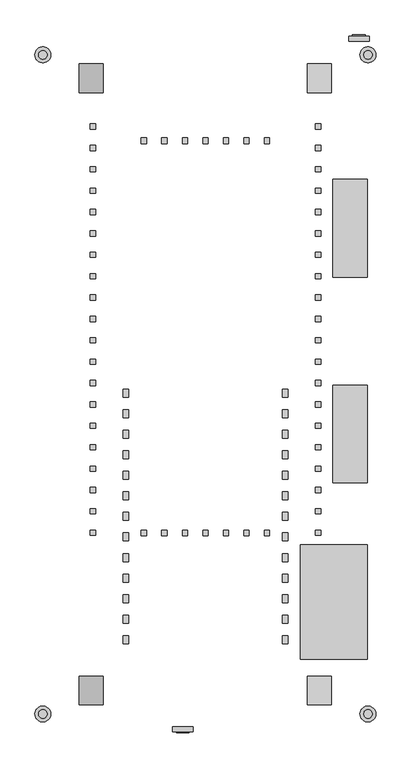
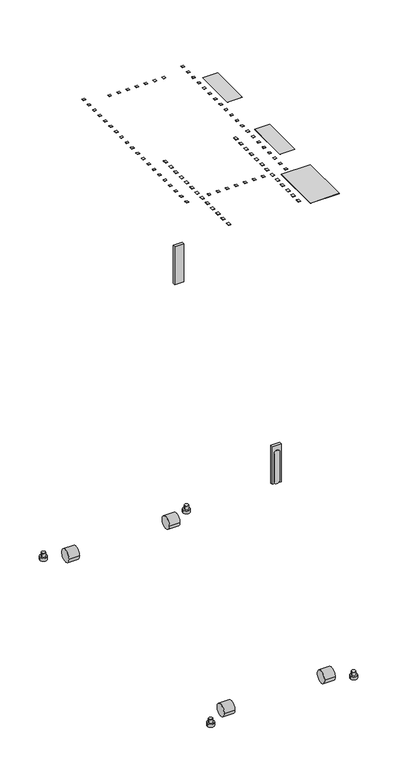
"""IFC4 building model written with IfcOpenShell, lengths in millimetres: proxy geometry, NetShelter_SX_Series_Rack_Enclosure_Schneider_Electric_BIM_Model : AR3300 - NetShelter SX, 42U, 600mm Wide X 1200mm Depth."""

from ifc_helpers import new_model, si_unit, point, frame, frame_2d, origin, place, context, project, spatial, polyline, circle_curve, trimmed, segment, composite_curve, outline, extrude, source, transform, mapped, element, save
from ifc_brep_helpers import plane_surface, cylinder_surface, advanced_brep


def mechanical_equipment_5f89525c(model_context):
    return source(origin(), model_context, "Body", "SolidModel", [
        extrude(outline(polyline([(166.5, -547.0), (166.5, -347.0), (283.5, -347.0), (283.5, -547.0), (166.5, -547.0)])), frame((0.0, 0.0, 1991.0), z_axis=(0.0, 0.0, 1.0), x_axis=(1.0, 0.0, 0.0)), (0.0, 0.0, 1.0), 1.0),
        extrude(outline(polyline([(283.5, -238.0), (223.5, -238.0), (223.5, -67.0), (283.5, -67.0), (283.5, -238.0)])), frame((0.0, 0.0, 1991.0), z_axis=(0.0, 0.0, 1.0), x_axis=(1.0, 0.0, 0.0)), (0.0, 0.0, 1.0), 1.0),
        extrude(outline(polyline([(283.5, 122.0), (223.5, 122.0), (223.5, 293.0), (283.5, 293.0), (283.5, 122.0)])), frame((0.0, 0.0, 1991.0), z_axis=(0.0, 0.0, 1.0), x_axis=(1.0, 0.0, 0.0)), (0.0, 0.0, 1.0), 1.0),
        extrude(outline(composite_curve([segment(trimmed(circle_curve(frame_2d((470.5, 25.0)), 25.0), [point((495.5, 25.0))], [point((445.5, 25.0))], False, "CARTESIAN"), True, "CONTINUOUS"), segment(trimmed(circle_curve(frame_2d((470.5, 25.0)), 25.0), [point((445.5, 25.0))], [point((495.5, 25.0))], False, "CARTESIAN"), True, "CONTINUOUS")], self_intersect=False)), frame((-221.0, 0.0, 0.0), z_axis=(1.0, 0.0, 0.0), x_axis=(0.0, 1.0, 0.0)), (0.0, 0.0, 1.0), 42.0),
        extrude(outline(composite_curve([segment(trimmed(circle_curve(frame_2d((470.5, 25.0)), 25.0), [point((495.5, 25.0))], [point((445.5, 25.0))], False, "CARTESIAN"), True, "CONTINUOUS"), segment(trimmed(circle_curve(frame_2d((470.5, 25.0)), 25.0), [point((445.5, 25.0))], [point((495.5, 25.0))], False, "CARTESIAN"), True, "CONTINUOUS")], self_intersect=False)), frame((179.0, 0.0, 0.0), z_axis=(1.0, 0.0, 0.0), x_axis=(0.0, 1.0, 0.0)), (0.0, 0.0, 1.0), 42.0),
        extrude(outline(composite_curve([segment(trimmed(circle_curve(frame_2d((-601.5, 25.0)), 25.0), [point((-626.5, 25.0))], [point((-576.5, 25.0))], False, "CARTESIAN"), True, "CONTINUOUS"), segment(trimmed(circle_curve(frame_2d((-601.5, 25.0)), 25.0), [point((-576.5, 25.0))], [point((-626.5, 25.0))], False, "CARTESIAN"), True, "CONTINUOUS")], self_intersect=False)), frame((-221.0, 0.0, 0.0), z_axis=(1.0, 0.0, 0.0), x_axis=(0.0, 1.0, 0.0)), (0.0, 0.0, 1.0), 42.0),
        extrude(outline(composite_curve([segment(trimmed(circle_curve(frame_2d((-601.5, 25.0)), 25.0), [point((-626.5, 25.0))], [point((-576.5, 25.0))], False, "CARTESIAN"), True, "CONTINUOUS"), segment(trimmed(circle_curve(frame_2d((-601.5, 25.0)), 25.0), [point((-576.5, 25.0))], [point((-626.5, 25.0))], False, "CARTESIAN"), True, "CONTINUOUS")], self_intersect=False)), frame((179.0, 0.0, 0.0), z_axis=(1.0, 0.0, 0.0), x_axis=(0.0, 1.0, 0.0)), (0.0, 0.0, 1.0), 42.0),
        advanced_brep(
        [(251.3368526, 544.0499756, 1123.0590115), (287.0, 544.0499756, 1123.0590115), (287.0, 544.0499756, 963.0), (272.3677154, 544.0499756, 963.0), (273.4393893, 544.0499756, 963.3154611), (275.3725006, 544.0499756, 964.3170777), (277.071341, 544.0499756, 965.6659795), (280.4225766, 544.0499756, 973.9455005), (280.4225766, 544.0499756, 979.9131415), (280.4225766, 544.0499756, 981.4978364), (280.4225766, 544.0499756, 1091.5384088), (257.9142777, 544.0499756, 1091.5384088), (257.9142777, 544.0499756, 981.4978364), (257.9142777, 544.0499756, 979.9131415), (257.9142777, 544.0499756, 973.9455005), (261.2655133, 544.0499756, 965.6659795), (262.9643537, 544.0499756, 964.3170777), (264.8974651, 544.0499756, 963.3154611), (265.969139, 544.0499756, 963.0), (251.3368526, 544.0499756, 963.0), (251.3368526, 535.0499756, 1123.0590115), (251.3368526, 535.0499756, 963.0), (287.0, 535.0499756, 963.0), (287.0, 535.0499756, 1123.0590115), (277.071341, 546.0499756, 965.6659795), (275.3725006, 546.0499756, 964.3170777), (273.4393893, 546.0499756, 963.3154611), (271.3450029, 546.0499756, 962.6989514), (269.1684272, 546.0499756, 962.4908285), (266.9918515, 546.0499756, 962.6989514), (264.8974651, 546.0499756, 963.3154611), (262.9643537, 546.0499756, 964.3170777), (261.2655133, 546.0499756, 965.6659795), (257.9142777, 546.0499756, 973.9455005), (257.9142777, 546.0499756, 979.9131415), (257.9142777, 546.0499756, 981.4978364), (257.9142777, 546.0499756, 1091.5384088), (280.4225766, 546.0499756, 1091.5384088), (280.4225766, 546.0499756, 981.4978364), (280.4225766, 546.0499756, 979.9131415), (280.4225766, 546.0499756, 973.9455005), (266.9918515, 544.0499756, 962.6989514), (269.1684272, 544.0499756, 962.4908285), (271.3450029, 544.0499756, 962.6989514)],
        [
            (0, 1),
            (1, 2),
            (2, 3),
            (3, 4),
            (4, 5),
            (5, 6),
            (6, 7, circle_curve(frame((267.9998766, 544.0499756, 974.1557506), z_axis=(0.0, -1.0, 0.0), x_axis=(-1.0, 0.0, 0.0)), 12.4244791)),
            (7, 8),
            (8, 9),
            (9, 10),
            (10, 11, circle_curve(frame((269.1684272, 544.0499756, 1091.5384088), z_axis=(0.0, -1.0, 0.0), x_axis=(-1.0, 0.0, 0.0)), 11.2541494)),
            (11, 12),
            (12, 13),
            (13, 14),
            (14, 15, circle_curve(frame((270.3369777, 544.0499756, 974.1557506), z_axis=(0.0, -1.0, 0.0), x_axis=(-1.0, 0.0, 0.0)), 12.4244791)),
            (15, 16),
            (16, 17),
            (17, 18),
            (18, 19),
            (19, 0),
            (20, 21),
            (21, 22),
            (22, 23),
            (23, 20),
            (0, 20),
            (23, 1),
            (22, 2),
            (21, 19),
            (18, 3),
            (24, 25),
            (25, 26),
            (26, 27),
            (27, 28),
            (28, 29),
            (29, 30),
            (30, 31),
            (31, 32),
            (32, 33, circle_curve(frame((270.3369777, 546.0499756, 974.1557506), z_axis=(0.0, 1.0, 0.0), x_axis=(-1.0, 0.0, 0.0)), 12.4244791)),
            (33, 34),
            (34, 35),
            (35, 36),
            (36, 37, circle_curve(frame((269.1684272, 546.0499756, 1091.5384088), z_axis=(0.0, 1.0, 0.0), x_axis=(-1.0, 0.0, 0.0)), 11.2541494)),
            (37, 38),
            (38, 39),
            (39, 40),
            (40, 24, circle_curve(frame((267.9998766, 546.0499756, 974.1557506), z_axis=(0.0, 1.0, 0.0), x_axis=(-1.0, 0.0, 0.0)), 12.4244791)),
            (41, 42),
            (42, 43),
            (43, 3),
            (18, 41),
            (24, 6),
            (5, 25),
            (4, 26),
            (43, 27),
            (42, 28),
            (41, 29),
            (17, 30),
            (16, 31),
            (15, 32),
            (14, 33),
            (13, 34),
            (12, 35),
            (11, 36),
            (10, 37),
            (9, 38),
            (8, 39),
            (7, 40),
        ],
        [
            plane_surface(frame((287.0, 544.0499756, 1123.0590115), z_axis=(0.0, 1.0, 0.0), x_axis=(1.0, 0.0, 0.0))),
            plane_surface(frame((287.0, 535.0499756, 1123.0590115), z_axis=(0.0, -1.0, 0.0), x_axis=(-1.0, 0.0, 0.0))),
            plane_surface(frame((251.3368526, 544.0499756, 1123.0590115), z_axis=(0.0, 0.0, 1.0), x_axis=(0.0, -1.0, 0.0))),
            plane_surface(frame((287.0, 544.0499756, 1123.0590115), z_axis=(1.0, 0.0, 0.0), x_axis=(0.0, -1.0, 0.0))),
            plane_surface(frame((287.0, 544.0499756, 963.0), z_axis=(0.0, 0.0, -1.0), x_axis=(0.0, -1.0, 0.0))),
            plane_surface(frame((251.3368526, 544.0499756, 963.0), z_axis=(-1.0, 0.0, 0.0), x_axis=(0.0, -1.0, 0.0))),
            plane_surface(frame((275.3725006, 546.0499756, 964.3170777), z_axis=(0.0, 1.0, 0.0), x_axis=(-0.7831506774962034, 0.0, -0.6218319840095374))),
            plane_surface(frame((275.3725006, 544.0499756, 964.3170777), z_axis=(0.0, -1.0, 0.0), x_axis=(0.7831506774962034, 0.0, 0.6218319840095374))),
            plane_surface(frame((277.071341, 546.0499756, 965.6659795), z_axis=(0.6218319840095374, 0.0, -0.7831506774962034), x_axis=(0.0, -1.0, 0.0))),
            plane_surface(frame((275.3725006, 546.0499756, 964.3170777), z_axis=(0.4600502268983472, 0.0, -0.8878928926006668), x_axis=(0.0, -1.0, 0.0))),
            plane_surface(frame((273.4393893, 546.0499756, 963.3154611), z_axis=(0.28238288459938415, 0.0, -0.9593017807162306), x_axis=(0.0, -1.0, 0.0))),
            plane_surface(frame((271.3450029, 546.0499756, 962.6989514), z_axis=(0.09518525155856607, 0.0, -0.9954595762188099), x_axis=(0.0, -1.0, 0.0))),
            plane_surface(frame((269.1684272, 546.0499756, 962.4908285), z_axis=(-0.09518525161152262, 0.0, -0.9954595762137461), x_axis=(0.0, -1.0, 0.0))),
            plane_surface(frame((266.9918515, 546.0499756, 962.6989514), z_axis=(-0.2823828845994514, 0.0, -0.9593017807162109), x_axis=(0.0, -1.0, 0.0))),
            plane_surface(frame((264.8974651, 546.0499756, 963.3154611), z_axis=(-0.4600502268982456, 0.0, -0.8878928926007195), x_axis=(0.0, -1.0, 0.0))),
            plane_surface(frame((262.9643537, 546.0499756, 964.3170777), z_axis=(-0.6218319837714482, 0.0, -0.7831506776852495), x_axis=(0.0, -1.0, 0.0))),
            cylinder_surface(frame((270.3369777, 544.0499756, 974.1557506), z_axis=(0.0, 1.0, 0.0), x_axis=(-1.0, 0.0, 0.0)), 12.4244791),
            plane_surface(frame((257.9142777, 546.0499756, 973.9455005), z_axis=(-1.0, 0.0, 0.0), x_axis=(0.0, -1.0, 0.0))),
            plane_surface(frame((257.9142777, 546.0499756, 979.9131415), z_axis=(-1.0, 0.0, 0.0), x_axis=(0.0, -1.0, 0.0))),
            plane_surface(frame((257.9142777, 546.0499756, 981.4978364), z_axis=(-1.0, 0.0, 0.0), x_axis=(0.0, -1.0, 0.0))),
            cylinder_surface(frame((269.1684272, 544.0499756, 1091.5384088), z_axis=(0.0, 1.0, 0.0), x_axis=(-1.0, 0.0, 0.0)), 11.2541494),
            plane_surface(frame((280.4225766, 546.0499756, 1091.5384088), z_axis=(1.0, 0.0, -1.3564306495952e-10), x_axis=(0.0, -1.0, 0.0))),
            plane_surface(frame((280.4225766, 546.0499756, 981.4978364), z_axis=(1.0, 0.0, 0.0), x_axis=(0.0, -1.0, 0.0))),
            plane_surface(frame((280.4225766, 546.0499756, 979.9131415), z_axis=(1.0, 0.0, 0.0), x_axis=(0.0, -1.0, 0.0))),
            cylinder_surface(frame((267.9998766, 544.0499756, 974.1557506), z_axis=(0.0, 1.0, 0.0), x_axis=(-1.0, 0.0, 0.0)), 12.4244791),
        ],
        [
            (0, [[1, 2, 3, 4, 5, 6, 7, 8, 9, 10, 11, 12, 13, 14, 15, 16, 17, 18, 19, 20]]),
            (1, [[21, 22, 23, 24]]),
            (2, [[-1, 25, -24, 26]]),
            (3, [[-2, -26, -23, 27]]),
            (4, [[-22, 28, -19, 29, -3, -27]]),
            (5, [[-20, -28, -21, -25]]),
            (6, [[30, 31, 32, 33, 34, 35, 36, 37, 38, 39, 40, 41, 42, 43, 44, 45, 46]]),
            (7, [[47, 48, 49, -29, 50]]),
            (8, [[-30, 51, -6, 52]]),
            (9, [[-31, -52, -5, 53]]),
            (10, [[-32, -53, -4, -49, 54]]),
            (11, [[-33, -54, -48, 55]]),
            (12, [[-34, -55, -47, 56]]),
            (13, [[-35, -56, -50, -18, 57]]),
            (14, [[-36, -57, -17, 58]]),
            (15, [[-37, -58, -16, 59]]),
            (16, [[-38, -59, -15, 60]]),
            (17, [[-39, -60, -14, 61]]),
            (18, [[-40, -61, -13, 62]]),
            (19, [[-41, -62, -12, 63]]),
            (20, [[-42, -63, -11, 64]]),
            (21, [[-43, -64, -10, 65]]),
            (22, [[-44, -65, -9, 66]]),
            (23, [[-45, -66, -8, 67]]),
            (24, [[-46, -67, -7, -51]]),
        ],
    ),
        extrude(outline(composite_curve([segment(trimmed(circle_curve(frame_2d((285.0, 511.5)), 7.5), [point((292.5, 511.5))], [point((277.5, 511.5))], False, "CARTESIAN"), True, "CONTINUOUS"), segment(trimmed(circle_curve(frame_2d((285.0, 511.5)), 7.5), [point((277.5, 511.5))], [point((292.5, 511.5))], False, "CARTESIAN"), True, "CONTINUOUS")], self_intersect=False)), frame((0.0, 0.0, 21.0), z_axis=(0.0, 0.0, 1.0), x_axis=(1.0, 0.0, 0.0)), (0.0, 0.0, 1.0), 16.0),
        extrude(outline(composite_curve([segment(trimmed(circle_curve(frame_2d((285.0, 511.5)), 14.0), [point((299.0, 511.5))], [point((271.0, 511.5))], False, "CARTESIAN"), True, "CONTINUOUS"), segment(trimmed(circle_curve(frame_2d((285.0, 511.5)), 14.0), [point((271.0, 511.5))], [point((299.0, 511.5))], False, "CARTESIAN"), True, "CONTINUOUS")], self_intersect=False)), frame((0.0, 0.0, 9.0), z_axis=(0.0, 0.0, 1.0), x_axis=(1.0, 0.0, 0.0)), (0.0, 0.0, 1.0), 12.0),
        extrude(outline(composite_curve([segment(trimmed(circle_curve(frame_2d((-285.0, 511.5)), 7.5), [point((-292.5, 511.5))], [point((-277.5, 511.5))], False, "CARTESIAN"), True, "CONTINUOUS"), segment(trimmed(circle_curve(frame_2d((-285.0, 511.5)), 7.5), [point((-277.5, 511.5))], [point((-292.5, 511.5))], False, "CARTESIAN"), True, "CONTINUOUS")], self_intersect=False)), frame((0.0, 0.0, 21.0), z_axis=(0.0, 0.0, 1.0), x_axis=(1.0, 0.0, 0.0)), (0.0, 0.0, 1.0), 16.0),
        extrude(outline(composite_curve([segment(trimmed(circle_curve(frame_2d((-285.0, 511.5)), 14.0), [point((-299.0, 511.5))], [point((-271.0, 511.5))], False, "CARTESIAN"), True, "CONTINUOUS"), segment(trimmed(circle_curve(frame_2d((-285.0, 511.5)), 14.0), [point((-271.0, 511.5))], [point((-299.0, 511.5))], False, "CARTESIAN"), True, "CONTINUOUS")], self_intersect=False)), frame((0.0, 0.0, 9.0), z_axis=(0.0, 0.0, 1.0), x_axis=(1.0, 0.0, 0.0)), (0.0, 0.0, 1.0), 12.0),
        extrude(outline(composite_curve([segment(trimmed(circle_curve(frame_2d((285.0, -642.5)), 7.5), [point((292.5, -642.5))], [point((277.5, -642.5))], False, "CARTESIAN"), True, "CONTINUOUS"), segment(trimmed(circle_curve(frame_2d((285.0, -642.5)), 7.5), [point((277.5, -642.5))], [point((292.5, -642.5))], False, "CARTESIAN"), True, "CONTINUOUS")], self_intersect=False)), frame((0.0, 0.0, 21.0), z_axis=(0.0, 0.0, 1.0), x_axis=(1.0, 0.0, 0.0)), (0.0, 0.0, 1.0), 16.0),
        extrude(outline(composite_curve([segment(trimmed(circle_curve(frame_2d((285.0, -642.5)), 14.0), [point((299.0, -642.5))], [point((271.0, -642.5))], False, "CARTESIAN"), True, "CONTINUOUS"), segment(trimmed(circle_curve(frame_2d((285.0, -642.5)), 14.0), [point((271.0, -642.5))], [point((299.0, -642.5))], False, "CARTESIAN"), True, "CONTINUOUS")], self_intersect=False)), frame((0.0, 0.0, 9.0), z_axis=(0.0, 0.0, 1.0), x_axis=(1.0, 0.0, 0.0)), (0.0, 0.0, 1.0), 12.0),
        advanced_brep(
        [(-292.5, -642.5, 37.0), (-277.5, -642.5, 37.0), (-277.5, -642.5, 21.0), (-292.5, -642.5, 21.0), (-299.0, -642.5, 21.0), (-271.0, -642.5, 21.0), (-299.0, -642.5, 9.0), (-271.0, -642.5, 9.0)],
        [
            (0, 1, circle_curve(frame((-285.0, -642.5, 37.0), z_axis=(0.0, 0.0, 1.0), x_axis=(1.0, 0.0, 0.0)), 7.5)),
            (1, 0, circle_curve(frame((-285.0, -642.5, 37.0), z_axis=(0.0, 0.0, 1.0), x_axis=(1.0, 0.0, 0.0)), 7.5)),
            (1, 2),
            (2, 3, circle_curve(frame((-285.0, -642.5, 21.0), z_axis=(0.0, 0.0, 1.0), x_axis=(1.0, 0.0, 0.0)), 7.5)),
            (3, 0),
            (3, 2, circle_curve(frame((-285.0, -642.5, 21.0), z_axis=(0.0, 0.0, 1.0), x_axis=(1.0, 0.0, 0.0)), 7.5)),
            (4, 5, circle_curve(frame((-285.0, -642.5, 21.0), z_axis=(0.0, 0.0, 1.0), x_axis=(1.0, 0.0, 0.0)), 14.0)),
            (5, 4, circle_curve(frame((-285.0, -642.5, 21.0), z_axis=(0.0, 0.0, 1.0), x_axis=(1.0, 0.0, 0.0)), 14.0)),
            (6, 7, circle_curve(frame((-285.0, -642.5, 9.0), z_axis=(0.0, 0.0, -1.0), x_axis=(1.0, 0.0, 0.0)), 14.0)),
            (7, 6, circle_curve(frame((-285.0, -642.5, 9.0), z_axis=(0.0, 0.0, -1.0), x_axis=(1.0, 0.0, 0.0)), 14.0)),
            (5, 7),
            (6, 4),
        ],
        [
            plane_surface(frame((-277.5, -642.5, 37.0), z_axis=(0.0, 0.0, 1.0), x_axis=(0.0, -1.0, 0.0))),
            cylinder_surface(frame((-285.0, -642.5, 21.0), z_axis=(0.0, 0.0, 1.0), x_axis=(1.0, 0.0, 0.0)), 7.5),
            plane_surface(frame((-271.0, -642.5, 21.0), z_axis=(0.0, 0.0, 1.0), x_axis=(0.0, -1.0, 0.0))),
            plane_surface(frame((-271.0, -642.5, 9.0), z_axis=(0.0, 0.0, -1.0), x_axis=(0.0, 1.0, 0.0))),
            cylinder_surface(frame((-285.0, -642.5, 9.0), z_axis=(0.0, 0.0, 1.0), x_axis=(1.0, 0.0, 0.0)), 14.0),
        ],
        [
            (0, [[1, 2]]),
            (1, [[3, 4, 5, -2]]),
            (1, [[-5, 6, -3, -1]]),
            (2, [[7, 8], [-6, -4]]),
            (3, [[9, 10]]),
            (4, [[11, -9, 12, -8]]),
            (4, [[-12, -10, -11, -7]]),
        ],
    ),
        advanced_brep(
        [(-57.4775271, -673.9999881, 1122.0590115), (-57.4775271, -673.9999881, 962.0), (-42.8452407, -673.9999881, 962.0), (-43.9169146, -673.9999881, 962.3154611), (-45.8500259, -673.9999881, 963.3170777), (-47.5488663, -673.9999881, 964.6659795), (-50.900102, -673.9999881, 972.9455005), (-50.900102, -673.9999881, 978.9131415), (-50.900102, -673.9999881, 980.4978364), (-50.900102, -673.9999881, 1090.5384088), (-28.391803, -673.9999881, 1090.5384088), (-28.3918031, -673.9999881, 980.4978364), (-28.3918031, -673.9999881, 978.9131415), (-28.3918031, -673.9999881, 972.9455005), (-31.7430387, -673.9999881, 964.6659794), (-33.4418791, -673.9999881, 963.3170777), (-35.3749904, -673.9999881, 962.3154611), (-36.4466643, -673.9999881, 962.0), (-21.8143797, -673.9999881, 962.0), (-21.8143797, -673.9999881, 1122.0590115), (-57.4775271, -664.9999881, 1122.0590115), (-21.8143797, -664.9999881, 1122.0590115), (-21.8143797, -664.9999881, 962.0), (-57.4775271, -664.9999881, 962.0), (-31.7430387, -675.9999881, 964.6659794), (-28.3918031, -675.9999881, 972.9455005), (-28.3918031, -675.9999881, 978.9131415), (-28.3918031, -675.9999881, 980.4978364), (-28.391803, -675.9999881, 1090.5384088), (-50.9001019, -675.9999881, 1090.5384088), (-50.900102, -675.9999881, 980.4978364), (-50.900102, -675.9999881, 978.9131415), (-50.900102, -675.9999881, 972.9455005), (-47.5488663, -675.9999881, 964.6659795), (-45.8500259, -675.9999881, 963.3170777), (-43.9169146, -675.9999881, 962.3154611), (-41.8225282, -675.9999881, 961.6989514), (-39.6459525, -675.9999881, 961.4908285), (-37.4693768, -675.9999881, 961.6989514), (-35.3749904, -675.9999881, 962.3154611), (-33.4418791, -675.9999881, 963.3170777), (-41.8225282, -673.9999881, 961.6989514), (-37.4693768, -673.9999881, 961.6989514), (-39.6459525, -673.9999881, 961.4908285)],
        [
            (0, 1),
            (1, 2),
            (2, 3),
            (3, 4),
            (4, 5),
            (5, 6, circle_curve(frame((-38.477402, -673.9999881, 973.1557506), z_axis=(0.0, 1.0, 0.0), x_axis=(-1.0, 0.0, 0.0)), 12.4244791)),
            (6, 7),
            (7, 8),
            (8, 9),
            (9, 10, circle_curve(frame((-39.6459525, -673.9999881, 1090.5384088), z_axis=(0.0, 1.0, 0.0), x_axis=(-1.0, 0.0, 0.0)), 11.2541494)),
            (10, 11),
            (11, 12),
            (12, 13),
            (13, 14, circle_curve(frame((-40.814503, -673.9999881, 973.1557506), z_axis=(0.0, 1.0, 0.0), x_axis=(-1.0, 0.0, 0.0)), 12.4244791)),
            (14, 15),
            (15, 16),
            (16, 17),
            (17, 18),
            (18, 19),
            (19, 0),
            (20, 21),
            (21, 22),
            (22, 23),
            (23, 20),
            (19, 21),
            (20, 0),
            (18, 22),
            (17, 2),
            (1, 23),
            (24, 25, circle_curve(frame((-40.814503, -675.9999881, 973.1557506), z_axis=(0.0, -1.0, 0.0), x_axis=(-1.0, 0.0, 0.0)), 12.4244791)),
            (25, 26),
            (26, 27),
            (27, 28),
            (28, 29, circle_curve(frame((-39.6459525, -675.9999881, 1090.5384088), z_axis=(0.0, -1.0, 0.0), x_axis=(-1.0, 0.0, 0.0)), 11.2541494)),
            (29, 30),
            (30, 31),
            (31, 32),
            (32, 33, circle_curve(frame((-38.477402, -675.9999881, 973.1557506), z_axis=(0.0, -1.0, 0.0), x_axis=(-1.0, 0.0, 0.0)), 12.4244791)),
            (33, 34),
            (34, 35),
            (35, 36),
            (36, 37),
            (37, 38),
            (38, 39),
            (39, 40),
            (40, 24),
            (41, 2),
            (17, 42),
            (42, 43),
            (43, 41),
            (40, 15),
            (14, 24),
            (39, 16),
            (38, 42),
            (37, 43),
            (36, 41),
            (35, 3),
            (34, 4),
            (33, 5),
            (32, 6),
            (31, 7),
            (30, 8),
            (29, 9),
            (28, 10),
            (27, 11),
            (26, 12),
            (25, 13),
        ],
        [
            plane_surface(frame((-21.8143797, -673.9999881, 1122.0590115), z_axis=(0.0, -1.0, 0.0), x_axis=(1.0, 0.0, 0.0))),
            plane_surface(frame((-21.8143797, -664.9999881, 1122.0590115), z_axis=(0.0, 1.0, 0.0), x_axis=(-1.0, 0.0, 0.0))),
            plane_surface(frame((-57.4775271, -673.9999881, 1122.0590115), z_axis=(0.0, 0.0, 1.0), x_axis=(0.0, 1.0, 0.0))),
            plane_surface(frame((-21.8143797, -673.9999881, 1122.0590115), z_axis=(1.0, 0.0, 0.0), x_axis=(0.0, 1.0, 0.0))),
            plane_surface(frame((-21.8143797, -673.9999881, 962.0), z_axis=(0.0, 0.0, -1.0), x_axis=(0.0, 1.0, 0.0))),
            plane_surface(frame((-57.4775271, -673.9999881, 962.0), z_axis=(-1.0, 0.0, 0.0), x_axis=(0.0, 1.0, 0.0))),
            plane_surface(frame((-33.4418791, -675.9999881, 963.3170777), z_axis=(0.0, -1.0, 0.0), x_axis=(-0.7831506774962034, 0.0, -0.6218319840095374))),
            plane_surface(frame((-33.4418791, -673.9999881, 963.3170777), z_axis=(0.0, 1.0, 0.0), x_axis=(0.7831506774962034, 0.0, 0.6218319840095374))),
            plane_surface(frame((-31.7430387, -675.9999881, 964.6659794), z_axis=(0.6218319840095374, 0.0, -0.7831506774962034), x_axis=(0.0, 1.0, 0.0))),
            plane_surface(frame((-33.4418791, -675.9999881, 963.3170777), z_axis=(0.4600502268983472, 0.0, -0.8878928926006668), x_axis=(0.0, 1.0, 0.0))),
            plane_surface(frame((-35.3749904, -675.9999881, 962.3154611), z_axis=(0.28238288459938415, 0.0, -0.9593017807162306), x_axis=(0.0, 1.0, 0.0))),
            plane_surface(frame((-37.4693768, -675.9999881, 961.6989514), z_axis=(0.09518525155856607, 0.0, -0.9954595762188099), x_axis=(0.0, 1.0, 0.0))),
            plane_surface(frame((-39.6459525, -675.9999881, 961.4908285), z_axis=(-0.09518525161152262, 0.0, -0.9954595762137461), x_axis=(0.0, 1.0, 0.0))),
            plane_surface(frame((-41.8225282, -675.9999881, 961.6989514), z_axis=(-0.2823828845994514, 0.0, -0.9593017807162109), x_axis=(0.0, 1.0, 0.0))),
            plane_surface(frame((-43.9169146, -675.9999881, 962.3154611), z_axis=(-0.4600502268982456, 0.0, -0.8878928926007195), x_axis=(0.0, 1.0, 0.0))),
            plane_surface(frame((-45.8500259, -675.9999881, 963.3170777), z_axis=(-0.6218319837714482, 0.0, -0.7831506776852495), x_axis=(0.0, 1.0, 0.0))),
            cylinder_surface(frame((-38.477402, -673.9999881, 973.1557506), z_axis=(0.0, -1.0, 0.0), x_axis=(-1.0, 0.0, 0.0)), 12.4244791),
            plane_surface(frame((-50.900102, -675.9999881, 972.9455005), z_axis=(-1.0, 0.0, 0.0), x_axis=(0.0, 1.0, 0.0))),
            plane_surface(frame((-50.900102, -675.9999881, 978.9131415), z_axis=(-1.0, 0.0, 0.0), x_axis=(0.0, 1.0, 0.0))),
            plane_surface(frame((-50.900102, -675.9999881, 980.4978364), z_axis=(-1.0, 0.0, 0.0), x_axis=(0.0, 1.0, 0.0))),
            cylinder_surface(frame((-39.6459525, -673.9999881, 1090.5384088), z_axis=(0.0, -1.0, 0.0), x_axis=(-1.0, 0.0, 0.0)), 11.2541494),
            plane_surface(frame((-28.391803, -675.9999881, 1090.5384088), z_axis=(1.0, 0.0, -1.3564306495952e-10), x_axis=(0.0, 1.0, 0.0))),
            plane_surface(frame((-28.3918031, -675.9999881, 980.4978364), z_axis=(1.0, 0.0, 0.0), x_axis=(0.0, 1.0, 0.0))),
            plane_surface(frame((-28.3918031, -675.9999881, 978.9131415), z_axis=(1.0, 0.0, 0.0), x_axis=(0.0, 1.0, 0.0))),
            cylinder_surface(frame((-40.814503, -673.9999881, 973.1557506), z_axis=(0.0, -1.0, 0.0), x_axis=(-1.0, 0.0, 0.0)), 12.4244791),
        ],
        [
            (0, [[1, 2, 3, 4, 5, 6, 7, 8, 9, 10, 11, 12, 13, 14, 15, 16, 17, 18, 19, 20]]),
            (1, [[21, 22, 23, 24]]),
            (2, [[25, -21, 26, -20]]),
            (3, [[27, -22, -25, -19]]),
            (4, [[-27, -18, 28, -2, 29, -23]]),
            (5, [[-26, -24, -29, -1]]),
            (6, [[30, 31, 32, 33, 34, 35, 36, 37, 38, 39, 40, 41, 42, 43, 44, 45, 46]]),
            (7, [[47, -28, 48, 49, 50]]),
            (8, [[51, -15, 52, -46]]),
            (9, [[53, -16, -51, -45]]),
            (10, [[54, -48, -17, -53, -44]]),
            (11, [[55, -49, -54, -43]]),
            (12, [[56, -50, -55, -42]]),
            (13, [[57, -3, -47, -56, -41]]),
            (14, [[58, -4, -57, -40]]),
            (15, [[59, -5, -58, -39]]),
            (16, [[60, -6, -59, -38]]),
            (17, [[61, -7, -60, -37]]),
            (18, [[62, -8, -61, -36]]),
            (19, [[63, -9, -62, -35]]),
            (20, [[64, -10, -63, -34]]),
            (21, [[65, -11, -64, -33]]),
            (22, [[66, -12, -65, -32]]),
            (23, [[67, -13, -66, -31]]),
            (24, [[-52, -14, -67, -30]]),
        ],
    ),
        extrude(outline(polyline([(-202.5000006, -292.5740431), (-202.5000006, -283.5740397), (-192.4999952, -283.5740397), (-192.4999952, -292.5740431), (-202.5000006, -292.5740431)])), frame((0.0, 0.0, 1991.0), z_axis=(0.0, 0.0, 1.0), x_axis=(1.0, 0.0, 0.0)), (0.0, 0.0, 1.0), 1.0),
        extrude(outline(polyline([(192.4999952, -292.5740431), (192.4999952, -283.5740397), (202.5000006, -283.5740397), (202.5000006, -292.5740431), (192.4999952, -292.5740431)])), frame((0.0, 0.0, 1991.0), z_axis=(0.0, 0.0, 1.0), x_axis=(1.0, 0.0, 0.0)), (0.0, 0.0, 1.0), 1.0),
        extrude(outline(polyline([(-134.7000003, -519.9992911), (-144.5000023, -519.9992911), (-144.5000023, -505.9992925), (-134.7000003, -505.9992925), (-134.7000003, -519.9992911)])), frame((0.0, 0.0, 1991.0), z_axis=(0.0, 0.0, 1.0), x_axis=(1.0, 0.0, 0.0)), (0.0, 0.0, 1.0), 1.0),
        extrude(outline(polyline([(144.5000023, -519.9992911), (134.7000003, -519.9992911), (134.7000003, -505.9992925), (144.5000023, -505.9992925), (144.5000023, -519.9992911)])), frame((0.0, 0.0, 1991.0), z_axis=(0.0, 0.0, 1.0), x_axis=(1.0, 0.0, 0.0)), (0.0, 0.0, 1.0), 1.0),
        extrude(outline(polyline([(-134.7000003, -483.9985822), (-144.5000023, -483.9985822), (-144.5000023, -469.9985836), (-134.7000003, -469.9985836), (-134.7000003, -483.9985822)])), frame((0.0, 0.0, 1991.0), z_axis=(0.0, 0.0, 1.0), x_axis=(1.0, 0.0, 0.0)), (0.0, 0.0, 1.0), 1.0),
        extrude(outline(polyline([(144.5000023, -483.9985822), (134.7000003, -483.9985822), (134.7000003, -469.9985836), (144.5000023, -469.9985836), (144.5000023, -483.9985822)])), frame((0.0, 0.0, 1991.0), z_axis=(0.0, 0.0, 1.0), x_axis=(1.0, 0.0, 0.0)), (0.0, 0.0, 1.0), 1.0),
        extrude(outline(polyline([(-134.7000003, -447.9978733), (-144.5000023, -447.9978733), (-144.5000023, -433.9978747), (-134.7000003, -433.9978747), (-134.7000003, -447.9978733)])), frame((0.0, 0.0, 1991.0), z_axis=(0.0, 0.0, 1.0), x_axis=(1.0, 0.0, 0.0)), (0.0, 0.0, 1.0), 1.0),
        extrude(outline(polyline([(144.5000023, -447.9978733), (134.7000003, -447.9978733), (134.7000003, -433.9978747), (144.5000023, -433.9978747), (144.5000023, -447.9978733)])), frame((0.0, 0.0, 1991.0), z_axis=(0.0, 0.0, 1.0), x_axis=(1.0, 0.0, 0.0)), (0.0, 0.0, 1.0), 1.0),
        extrude(outline(polyline([(-134.7000003, -411.9971643), (-144.5000023, -411.9971643), (-144.5000023, -397.9971658), (-134.7000003, -397.9971658), (-134.7000003, -411.9971643)])), frame((0.0, 0.0, 1991.0), z_axis=(0.0, 0.0, 1.0), x_axis=(1.0, 0.0, 0.0)), (0.0, 0.0, 1.0), 1.0),
        extrude(outline(polyline([(144.5000023, -411.9971643), (134.7000003, -411.9971643), (134.7000003, -397.9971658), (144.5000023, -397.9971658), (144.5000023, -411.9971643)])), frame((0.0, 0.0, 1991.0), z_axis=(0.0, 0.0, 1.0), x_axis=(1.0, 0.0, 0.0)), (0.0, 0.0, 1.0), 1.0),
        extrude(outline(polyline([(-134.7000003, -375.9964554), (-144.5000023, -375.9964554), (-144.5000023, -361.9964569), (-134.7000003, -361.9964569), (-134.7000003, -375.9964554)])), frame((0.0, 0.0, 1991.0), z_axis=(0.0, 0.0, 1.0), x_axis=(1.0, 0.0, 0.0)), (0.0, 0.0, 1.0), 1.0),
        extrude(outline(polyline([(144.5000023, -375.9964554), (134.7000003, -375.9964554), (134.7000003, -361.9964569), (144.5000023, -361.9964569), (144.5000023, -375.9964554)])), frame((0.0, 0.0, 1991.0), z_axis=(0.0, 0.0, 1.0), x_axis=(1.0, 0.0, 0.0)), (0.0, 0.0, 1.0), 1.0),
        extrude(outline(polyline([(-134.7000003, -339.9957465), (-144.5000023, -339.9957465), (-144.5000023, -325.9957479), (-134.7000003, -325.9957479), (-134.7000003, -339.9957465)])), frame((0.0, 0.0, 1991.0), z_axis=(0.0, 0.0, 1.0), x_axis=(1.0, 0.0, 0.0)), (0.0, 0.0, 1.0), 1.0),
        extrude(outline(polyline([(144.5000023, -339.9957465), (134.7000003, -339.9957465), (134.7000003, -325.9957479), (144.5000023, -325.9957479), (144.5000023, -339.9957465)])), frame((0.0, 0.0, 1991.0), z_axis=(0.0, 0.0, 1.0), x_axis=(1.0, 0.0, 0.0)), (0.0, 0.0, 1.0), 1.0),
        extrude(outline(polyline([(-134.7000003, -303.9950376), (-144.5000023, -303.9950376), (-144.5000023, -289.995039), (-134.7000003, -289.995039), (-134.7000003, -303.9950376)])), frame((0.0, 0.0, 1991.0), z_axis=(0.0, 0.0, 1.0), x_axis=(1.0, 0.0, 0.0)), (0.0, 0.0, 1.0), 1.0),
        extrude(outline(polyline([(144.5000023, -303.9950376), (134.7000003, -303.9950376), (134.7000003, -289.995039), (144.5000023, -289.995039), (144.5000023, -303.9950376)])), frame((0.0, 0.0, 1991.0), z_axis=(0.0, 0.0, 1.0), x_axis=(1.0, 0.0, 0.0)), (0.0, 0.0, 1.0), 1.0),
        extrude(outline(polyline([(-134.7000003, -267.9943287), (-144.5000023, -267.9943287), (-144.5000023, -253.9943301), (-134.7000003, -253.9943301), (-134.7000003, -267.9943287)])), frame((0.0, 0.0, 1991.0), z_axis=(0.0, 0.0, 1.0), x_axis=(1.0, 0.0, 0.0)), (0.0, 0.0, 1.0), 1.0),
        extrude(outline(polyline([(144.5000023, -267.9943287), (134.7000003, -267.9943287), (134.7000003, -253.9943301), (144.5000023, -253.9943301), (144.5000023, -267.9943287)])), frame((0.0, 0.0, 1991.0), z_axis=(0.0, 0.0, 1.0), x_axis=(1.0, 0.0, 0.0)), (0.0, 0.0, 1.0), 1.0),
        extrude(outline(polyline([(76.4999998, 365.919142), (76.4999998, 355.9191515), (67.5000039, 355.9191515), (67.5000039, 365.919142), (76.4999998, 365.919142)])), frame((0.0, 0.0, 1991.0), z_axis=(0.0, 0.0, 1.0), x_axis=(1.0, 0.0, 0.0)), (0.0, 0.0, 1.0), 1.0),
        extrude(outline(polyline([(76.4999998, -321.0808645), (76.4999998, -331.0808549), (67.5000039, -331.0808549), (67.5000039, -321.0808645), (76.4999998, -321.0808645)])), frame((0.0, 0.0, 1991.0), z_axis=(0.0, 0.0, 1.0), x_axis=(1.0, 0.0, 0.0)), (0.0, 0.0, 1.0), 1.0),
        extrude(outline(polyline([(-202.5000006, -255.1480862), (-202.5000006, -246.1480828), (-192.4999952, -246.1480828), (-192.4999952, -255.1480862), (-202.5000006, -255.1480862)])), frame((0.0, 0.0, 1991.0), z_axis=(0.0, 0.0, 1.0), x_axis=(1.0, 0.0, 0.0)), (0.0, 0.0, 1.0), 1.0),
        extrude(outline(polyline([(192.4999952, -255.1480862), (192.4999952, -246.1480828), (202.5000006, -246.1480828), (202.5000006, -255.1480862), (192.4999952, -255.1480862)])), frame((0.0, 0.0, 1991.0), z_axis=(0.0, 0.0, 1.0), x_axis=(1.0, 0.0, 0.0)), (0.0, 0.0, 1.0), 1.0),
        extrude(outline(polyline([(-202.5000006, -217.7221293), (-202.5000006, -208.7221259), (-192.4999952, -208.7221259), (-192.4999952, -217.7221293), (-202.5000006, -217.7221293)])), frame((0.0, 0.0, 1991.0), z_axis=(0.0, 0.0, 1.0), x_axis=(1.0, 0.0, 0.0)), (0.0, 0.0, 1.0), 1.0),
        extrude(outline(polyline([(192.4999952, -217.7221293), (192.4999952, -208.7221259), (202.5000006, -208.7221259), (202.5000006, -217.7221293), (192.4999952, -217.7221293)])), frame((0.0, 0.0, 1991.0), z_axis=(0.0, 0.0, 1.0), x_axis=(1.0, 0.0, 0.0)), (0.0, 0.0, 1.0), 1.0),
        extrude(outline(polyline([(-202.5000006, -180.2961723), (-202.5000006, -171.296169), (-192.4999952, -171.296169), (-192.4999952, -180.2961723), (-202.5000006, -180.2961723)])), frame((0.0, 0.0, 1991.0), z_axis=(0.0, 0.0, 1.0), x_axis=(1.0, 0.0, 0.0)), (0.0, 0.0, 1.0), 1.0),
        extrude(outline(polyline([(192.4999952, -180.2961723), (192.4999952, -171.296169), (202.5000006, -171.296169), (202.5000006, -180.2961723), (192.4999952, -180.2961723)])), frame((0.0, 0.0, 1991.0), z_axis=(0.0, 0.0, 1.0), x_axis=(1.0, 0.0, 0.0)), (0.0, 0.0, 1.0), 1.0),
        extrude(outline(polyline([(-202.5000006, -142.8702154), (-202.5000006, -133.8702121), (-192.4999952, -133.8702121), (-192.4999952, -142.8702154), (-202.5000006, -142.8702154)])), frame((0.0, 0.0, 1991.0), z_axis=(0.0, 0.0, 1.0), x_axis=(1.0, 0.0, 0.0)), (0.0, 0.0, 1.0), 1.0),
        extrude(outline(polyline([(192.4999952, -142.8702154), (192.4999952, -133.8702121), (202.5000006, -133.8702121), (202.5000006, -142.8702154), (192.4999952, -142.8702154)])), frame((0.0, 0.0, 1991.0), z_axis=(0.0, 0.0, 1.0), x_axis=(1.0, 0.0, 0.0)), (0.0, 0.0, 1.0), 1.0),
        extrude(outline(polyline([(-202.5000006, -105.4442585), (-202.5000006, -96.4442552), (-192.4999952, -96.4442552), (-192.4999952, -105.4442585), (-202.5000006, -105.4442585)])), frame((0.0, 0.0, 1991.0), z_axis=(0.0, 0.0, 1.0), x_axis=(1.0, 0.0, 0.0)), (0.0, 0.0, 1.0), 1.0),
        extrude(outline(polyline([(192.4999952, -105.4442585), (192.4999952, -96.4442552), (202.5000006, -96.4442552), (202.5000006, -105.4442585), (192.4999952, -105.4442585)])), frame((0.0, 0.0, 1991.0), z_axis=(0.0, 0.0, 1.0), x_axis=(1.0, 0.0, 0.0)), (0.0, 0.0, 1.0), 1.0),
        extrude(outline(polyline([(-202.5000006, -68.0183016), (-202.5000006, -59.0182983), (-192.4999952, -59.0182983), (-192.4999952, -68.0183016), (-202.5000006, -68.0183016)])), frame((0.0, 0.0, 1991.0), z_axis=(0.0, 0.0, 1.0), x_axis=(1.0, 0.0, 0.0)), (0.0, 0.0, 1.0), 1.0),
        extrude(outline(polyline([(192.4999952, -68.0183016), (192.4999952, -59.0182983), (202.5000006, -59.0182983), (202.5000006, -68.0183016), (192.4999952, -68.0183016)])), frame((0.0, 0.0, 1991.0), z_axis=(0.0, 0.0, 1.0), x_axis=(1.0, 0.0, 0.0)), (0.0, 0.0, 1.0), 1.0),
        extrude(outline(polyline([(-202.5000006, -30.5923447), (-202.5000006, -21.5923413), (-192.4999952, -21.5923413), (-192.4999952, -30.5923447), (-202.5000006, -30.5923447)])), frame((0.0, 0.0, 1991.0), z_axis=(0.0, 0.0, 1.0), x_axis=(1.0, 0.0, 0.0)), (0.0, 0.0, 1.0), 1.0),
        extrude(outline(polyline([(192.4999952, -30.5923447), (192.4999952, -21.5923413), (202.5000006, -21.5923413), (202.5000006, -30.5923447), (192.4999952, -30.5923447)])), frame((0.0, 0.0, 1991.0), z_axis=(0.0, 0.0, 1.0), x_axis=(1.0, 0.0, 0.0)), (0.0, 0.0, 1.0), 1.0),
        extrude(outline(polyline([(-202.5000006, 6.8336122), (-202.5000006, 15.8336156), (-192.4999952, 15.8336156), (-192.4999952, 6.8336122), (-202.5000006, 6.8336122)])), frame((0.0, 0.0, 1991.0), z_axis=(0.0, 0.0, 1.0), x_axis=(1.0, 0.0, 0.0)), (0.0, 0.0, 1.0), 1.0),
        extrude(outline(polyline([(192.4999952, 6.8336122), (192.4999952, 15.8336156), (202.5000006, 15.8336156), (202.5000006, 6.8336122), (192.4999952, 6.8336122)])), frame((0.0, 0.0, 1991.0), z_axis=(0.0, 0.0, 1.0), x_axis=(1.0, 0.0, 0.0)), (0.0, 0.0, 1.0), 1.0),
        extrude(outline(polyline([(-202.5000006, 44.2595692), (-202.5000006, 53.2595725), (-192.4999952, 53.2595725), (-192.4999952, 44.2595692), (-202.5000006, 44.2595692)])), frame((0.0, 0.0, 1991.0), z_axis=(0.0, 0.0, 1.0), x_axis=(1.0, 0.0, 0.0)), (0.0, 0.0, 1.0), 1.0),
        extrude(outline(polyline([(192.4999952, 44.2595692), (192.4999952, 53.2595725), (202.5000006, 53.2595725), (202.5000006, 44.2595692), (192.4999952, 44.2595692)])), frame((0.0, 0.0, 1991.0), z_axis=(0.0, 0.0, 1.0), x_axis=(1.0, 0.0, 0.0)), (0.0, 0.0, 1.0), 1.0),
        extrude(outline(polyline([(-202.5000006, 81.6855261), (-202.5000006, 90.6855294), (-192.4999952, 90.6855294), (-192.4999952, 81.6855261), (-202.5000006, 81.6855261)])), frame((0.0, 0.0, 1991.0), z_axis=(0.0, 0.0, 1.0), x_axis=(1.0, 0.0, 0.0)), (0.0, 0.0, 1.0), 1.0),
        extrude(outline(polyline([(192.4999952, 81.6855261), (192.4999952, 90.6855294), (202.5000006, 90.6855294), (202.5000006, 81.6855261), (192.4999952, 81.6855261)])), frame((0.0, 0.0, 1991.0), z_axis=(0.0, 0.0, 1.0), x_axis=(1.0, 0.0, 0.0)), (0.0, 0.0, 1.0), 1.0),
        extrude(outline(polyline([(-202.5000006, 119.111483), (-202.5000006, 128.1114863), (-192.4999952, 128.1114863), (-192.4999952, 119.111483), (-202.5000006, 119.111483)])), frame((0.0, 0.0, 1991.0), z_axis=(0.0, 0.0, 1.0), x_axis=(1.0, 0.0, 0.0)), (0.0, 0.0, 1.0), 1.0),
        extrude(outline(polyline([(192.4999952, 119.111483), (192.4999952, 128.1114863), (202.5000006, 128.1114863), (202.5000006, 119.111483), (192.4999952, 119.111483)])), frame((0.0, 0.0, 1991.0), z_axis=(0.0, 0.0, 1.0), x_axis=(1.0, 0.0, 0.0)), (0.0, 0.0, 1.0), 1.0),
        extrude(outline(polyline([(-202.5000006, 156.5374399), (-202.5000006, 165.5374432), (-192.4999952, 165.5374432), (-192.4999952, 156.5374399), (-202.5000006, 156.5374399)])), frame((0.0, 0.0, 1991.0), z_axis=(0.0, 0.0, 1.0), x_axis=(1.0, 0.0, 0.0)), (0.0, 0.0, 1.0), 1.0),
        extrude(outline(polyline([(192.4999952, 156.5374399), (192.4999952, 165.5374432), (202.5000006, 165.5374432), (202.5000006, 156.5374399), (192.4999952, 156.5374399)])), frame((0.0, 0.0, 1991.0), z_axis=(0.0, 0.0, 1.0), x_axis=(1.0, 0.0, 0.0)), (0.0, 0.0, 1.0), 1.0),
        extrude(outline(polyline([(-202.5000006, 193.9633968), (-202.5000006, 202.9634002), (-192.4999952, 202.9634002), (-192.4999952, 193.9633968), (-202.5000006, 193.9633968)])), frame((0.0, 0.0, 1991.0), z_axis=(0.0, 0.0, 1.0), x_axis=(1.0, 0.0, 0.0)), (0.0, 0.0, 1.0), 1.0),
        extrude(outline(polyline([(192.4999952, 193.9633968), (192.4999952, 202.9634002), (202.5000006, 202.9634002), (202.5000006, 193.9633968), (192.4999952, 193.9633968)])), frame((0.0, 0.0, 1991.0), z_axis=(0.0, 0.0, 1.0), x_axis=(1.0, 0.0, 0.0)), (0.0, 0.0, 1.0), 1.0),
        extrude(outline(polyline([(-202.5000006, 231.3893537), (-202.5000006, 240.3893571), (-192.4999952, 240.3893571), (-192.4999952, 231.3893537), (-202.5000006, 231.3893537)])), frame((0.0, 0.0, 1991.0), z_axis=(0.0, 0.0, 1.0), x_axis=(1.0, 0.0, 0.0)), (0.0, 0.0, 1.0), 1.0),
        extrude(outline(polyline([(192.4999952, 231.3893537), (192.4999952, 240.3893571), (202.5000006, 240.3893571), (202.5000006, 231.3893537), (192.4999952, 231.3893537)])), frame((0.0, 0.0, 1991.0), z_axis=(0.0, 0.0, 1.0), x_axis=(1.0, 0.0, 0.0)), (0.0, 0.0, 1.0), 1.0),
        extrude(outline(polyline([(-202.5000006, 268.8153106), (-202.5000006, 277.815314), (-192.4999952, 277.815314), (-192.4999952, 268.8153106), (-202.5000006, 268.8153106)])), frame((0.0, 0.0, 1991.0), z_axis=(0.0, 0.0, 1.0), x_axis=(1.0, 0.0, 0.0)), (0.0, 0.0, 1.0), 1.0),
        extrude(outline(polyline([(192.4999952, 268.8153106), (192.4999952, 277.815314), (202.5000006, 277.815314), (202.5000006, 268.8153106), (192.4999952, 268.8153106)])), frame((0.0, 0.0, 1991.0), z_axis=(0.0, 0.0, 1.0), x_axis=(1.0, 0.0, 0.0)), (0.0, 0.0, 1.0), 1.0),
        extrude(outline(polyline([(-202.5000006, 306.2412676), (-202.5000006, 315.2412709), (-192.4999952, 315.2412709), (-192.4999952, 306.2412676), (-202.5000006, 306.2412676)])), frame((0.0, 0.0, 1991.0), z_axis=(0.0, 0.0, 1.0), x_axis=(1.0, 0.0, 0.0)), (0.0, 0.0, 1.0), 1.0),
        extrude(outline(polyline([(192.4999952, 306.2412676), (192.4999952, 315.2412709), (202.5000006, 315.2412709), (202.5000006, 306.2412676), (192.4999952, 306.2412676)])), frame((0.0, 0.0, 1991.0), z_axis=(0.0, 0.0, 1.0), x_axis=(1.0, 0.0, 0.0)), (0.0, 0.0, 1.0), 1.0),
        extrude(outline(polyline([(-202.5000006, 343.6672245), (-202.5000006, 352.6672278), (-192.4999952, 352.6672278), (-192.4999952, 343.6672245), (-202.5000006, 343.6672245)])), frame((0.0, 0.0, 1991.0), z_axis=(0.0, 0.0, 1.0), x_axis=(1.0, 0.0, 0.0)), (0.0, 0.0, 1.0), 1.0),
        extrude(outline(polyline([(192.4999952, 343.6672245), (192.4999952, 352.6672278), (202.5000006, 352.6672278), (202.5000006, 343.6672245), (192.4999952, 343.6672245)])), frame((0.0, 0.0, 1991.0), z_axis=(0.0, 0.0, 1.0), x_axis=(1.0, 0.0, 0.0)), (0.0, 0.0, 1.0), 1.0),
        extrude(outline(polyline([(-202.5000006, 381.0931814), (-202.5000006, 390.0931847), (-192.4999952, 390.0931847), (-192.4999952, 381.0931814), (-202.5000006, 381.0931814)])), frame((0.0, 0.0, 1991.0), z_axis=(0.0, 0.0, 1.0), x_axis=(1.0, 0.0, 0.0)), (0.0, 0.0, 1.0), 1.0),
        extrude(outline(polyline([(192.4999952, 381.0931814), (192.4999952, 390.0931847), (202.5000006, 390.0931847), (202.5000006, 381.0931814), (192.4999952, 381.0931814)])), frame((0.0, 0.0, 1991.0), z_axis=(0.0, 0.0, 1.0), x_axis=(1.0, 0.0, 0.0)), (0.0, 0.0, 1.0), 1.0),
        extrude(outline(polyline([(-202.5000006, -330.0), (-202.5000006, -320.9999967), (-192.4999952, -320.9999967), (-192.4999952, -330.0), (-202.5000006, -330.0)])), frame((0.0, 0.0, 1991.0), z_axis=(0.0, 0.0, 1.0), x_axis=(1.0, 0.0, 0.0)), (0.0, 0.0, 1.0), 1.0),
        extrude(outline(polyline([(192.4999952, -330.0), (192.4999952, -320.9999967), (202.5000006, -320.9999967), (202.5000006, -330.0), (192.4999952, -330.0)])), frame((0.0, 0.0, 1991.0), z_axis=(0.0, 0.0, 1.0), x_axis=(1.0, 0.0, 0.0)), (0.0, 0.0, 1.0), 1.0),
        extrude(outline(polyline([(40.4999996, 365.919142), (40.4999996, 355.9191515), (31.5000037, 355.9191515), (31.5000037, 365.919142), (40.4999996, 365.919142)])), frame((0.0, 0.0, 1991.0), z_axis=(0.0, 0.0, 1.0), x_axis=(1.0, 0.0, 0.0)), (0.0, 0.0, 1.0), 1.0),
        extrude(outline(polyline([(4.4999994, 365.919142), (4.4999994, 355.9191515), (-4.4999965, 355.9191515), (-4.4999965, 365.919142), (4.4999994, 365.919142)])), frame((0.0, 0.0, 1991.0), z_axis=(0.0, 0.0, 1.0), x_axis=(1.0, 0.0, 0.0)), (0.0, 0.0, 1.0), 1.0),
        extrude(outline(polyline([(-31.5000008, 365.919142), (-31.5000008, 355.9191515), (-40.4999966, 355.9191515), (-40.4999966, 365.919142), (-31.5000008, 365.919142)])), frame((0.0, 0.0, 1991.0), z_axis=(0.0, 0.0, 1.0), x_axis=(1.0, 0.0, 0.0)), (0.0, 0.0, 1.0), 1.0),
        extrude(outline(polyline([(-67.5000009, 365.919142), (-67.5000009, 355.9191515), (-76.4999968, 355.9191515), (-76.4999968, 365.919142), (-67.5000009, 365.919142)])), frame((0.0, 0.0, 1991.0), z_axis=(0.0, 0.0, 1.0), x_axis=(1.0, 0.0, 0.0)), (0.0, 0.0, 1.0), 1.0),
        extrude(outline(polyline([(40.4999996, -321.0808645), (40.4999996, -331.0808549), (31.5000037, -331.0808549), (31.5000037, -321.0808645), (40.4999996, -321.0808645)])), frame((0.0, 0.0, 1991.0), z_axis=(0.0, 0.0, 1.0), x_axis=(1.0, 0.0, 0.0)), (0.0, 0.0, 1.0), 1.0),
        extrude(outline(polyline([(4.4999994, -321.0808645), (4.4999994, -331.0808549), (-4.4999965, -331.0808549), (-4.4999965, -321.0808645), (4.4999994, -321.0808645)])), frame((0.0, 0.0, 1991.0), z_axis=(0.0, 0.0, 1.0), x_axis=(1.0, 0.0, 0.0)), (0.0, 0.0, 1.0), 1.0),
        extrude(outline(polyline([(-31.5000008, -321.0808645), (-31.5000008, -331.0808549), (-40.4999966, -331.0808549), (-40.4999966, -321.0808645), (-31.5000008, -321.0808645)])), frame((0.0, 0.0, 1991.0), z_axis=(0.0, 0.0, 1.0), x_axis=(1.0, 0.0, 0.0)), (0.0, 0.0, 1.0), 1.0),
        extrude(outline(polyline([(-67.5000009, -321.0808645), (-67.5000009, -331.0808549), (-76.4999968, -331.0808549), (-76.4999968, -321.0808645), (-67.5000009, -321.0808645)])), frame((0.0, 0.0, 1991.0), z_axis=(0.0, 0.0, 1.0), x_axis=(1.0, 0.0, 0.0)), (0.0, 0.0, 1.0), 1.0),
        extrude(outline(polyline([(112.5, 365.919142), (112.5, 355.9191515), (103.5000041, 355.9191515), (103.5000041, 365.919142), (112.5, 365.919142)])), frame((0.0, 0.0, 1991.0), z_axis=(0.0, 0.0, 1.0), x_axis=(1.0, 0.0, 0.0)), (0.0, 0.0, 1.0), 1.0),
        extrude(outline(polyline([(-103.5000011, 365.919142), (-103.5000011, 355.9191515), (-112.499997, 355.9191515), (-112.499997, 365.919142), (-103.5000011, 365.919142)])), frame((0.0, 0.0, 1991.0), z_axis=(0.0, 0.0, 1.0), x_axis=(1.0, 0.0, 0.0)), (0.0, 0.0, 1.0), 1.0),
        extrude(outline(polyline([(112.5, -321.0808645), (112.5, -331.0808549), (103.5000041, -331.0808549), (103.5000041, -321.0808645), (112.5, -321.0808645)])), frame((0.0, 0.0, 1991.0), z_axis=(0.0, 0.0, 1.0), x_axis=(1.0, 0.0, 0.0)), (0.0, 0.0, 1.0), 1.0),
        extrude(outline(polyline([(-103.5000011, -321.0808645), (-103.5000011, -331.0808549), (-112.499997, -331.0808549), (-112.499997, -321.0808645), (-103.5000011, -321.0808645)])), frame((0.0, 0.0, 1991.0), z_axis=(0.0, 0.0, 1.0), x_axis=(1.0, 0.0, 0.0)), (0.0, 0.0, 1.0), 1.0),
        extrude(outline(polyline([(-134.7000003, -231.9936198), (-144.5000023, -231.9936198), (-144.5000023, -217.9936212), (-134.7000003, -217.9936212), (-134.7000003, -231.9936198)])), frame((0.0, 0.0, 1991.0), z_axis=(0.0, 0.0, 1.0), x_axis=(1.0, 0.0, 0.0)), (0.0, 0.0, 1.0), 1.0),
        extrude(outline(polyline([(144.5000023, -231.9936198), (134.7000003, -231.9936198), (134.7000003, -217.9936212), (144.5000023, -217.9936212), (144.5000023, -231.9936198)])), frame((0.0, 0.0, 1991.0), z_axis=(0.0, 0.0, 1.0), x_axis=(1.0, 0.0, 0.0)), (0.0, 0.0, 1.0), 1.0),
        extrude(outline(polyline([(-134.7000003, -195.9929109), (-144.5000023, -195.9929109), (-144.5000023, -181.9929123), (-134.7000003, -181.9929123), (-134.7000003, -195.9929109)])), frame((0.0, 0.0, 1991.0), z_axis=(0.0, 0.0, 1.0), x_axis=(1.0, 0.0, 0.0)), (0.0, 0.0, 1.0), 1.0),
        extrude(outline(polyline([(144.5000023, -195.9929109), (134.7000003, -195.9929109), (134.7000003, -181.9929123), (144.5000023, -181.9929123), (144.5000023, -195.9929109)])), frame((0.0, 0.0, 1991.0), z_axis=(0.0, 0.0, 1.0), x_axis=(1.0, 0.0, 0.0)), (0.0, 0.0, 1.0), 1.0),
        extrude(outline(polyline([(-134.7000003, -159.9922019), (-144.5000023, -159.9922019), (-144.5000023, -145.9922034), (-134.7000003, -145.9922034), (-134.7000003, -159.9922019)])), frame((0.0, 0.0, 1991.0), z_axis=(0.0, 0.0, 1.0), x_axis=(1.0, 0.0, 0.0)), (0.0, 0.0, 1.0), 1.0),
        extrude(outline(polyline([(144.5000023, -159.9922019), (134.7000003, -159.9922019), (134.7000003, -145.9922034), (144.5000023, -145.9922034), (144.5000023, -159.9922019)])), frame((0.0, 0.0, 1991.0), z_axis=(0.0, 0.0, 1.0), x_axis=(1.0, 0.0, 0.0)), (0.0, 0.0, 1.0), 1.0),
        extrude(outline(polyline([(-134.7000003, -123.991493), (-144.5000023, -123.991493), (-144.5000023, -109.9914945), (-134.7000003, -109.9914945), (-134.7000003, -123.991493)])), frame((0.0, 0.0, 1991.0), z_axis=(0.0, 0.0, 1.0), x_axis=(1.0, 0.0, 0.0)), (0.0, 0.0, 1.0), 1.0),
        extrude(outline(polyline([(144.5000023, -123.991493), (134.7000003, -123.991493), (134.7000003, -109.9914945), (144.5000023, -109.9914945), (144.5000023, -123.991493)])), frame((0.0, 0.0, 1991.0), z_axis=(0.0, 0.0, 1.0), x_axis=(1.0, 0.0, 0.0)), (0.0, 0.0, 1.0), 1.0),
        extrude(outline(polyline([(-134.7000003, -87.9907841), (-144.5000023, -87.9907841), (-144.5000023, -73.9907855), (-134.7000003, -73.9907855), (-134.7000003, -87.9907841)])), frame((0.0, 0.0, 1991.0), z_axis=(0.0, 0.0, 1.0), x_axis=(1.0, 0.0, 0.0)), (0.0, 0.0, 1.0), 1.0),
        extrude(outline(polyline([(144.5000023, -87.9907841), (134.7000003, -87.9907841), (134.7000003, -73.9907855), (144.5000023, -73.9907855), (144.5000023, -87.9907841)])), frame((0.0, 0.0, 1991.0), z_axis=(0.0, 0.0, 1.0), x_axis=(1.0, 0.0, 0.0)), (0.0, 0.0, 1.0), 1.0),
    ])


if __name__ == "__main__":
    model = new_model("IFC4")
    model_context = context("Model", 3, world=origin())
    ifc_project = project(units=[si_unit("LENGTHUNIT", "METRE", prefix="MILLI")], contexts=[model_context])
    site = spatial("IfcSite", under=ifc_project)
    building = spatial("IfcBuilding", under=site)
    placement = place(None, origin())
    mechanical_equipment_shape = mechanical_equipment_5f89525c(model_context)
    element("IfcBuildingElementProxy", 1, Name="NetShelter_SX_Series_Rack_Enclosure_Schneider_Electric_BIM_Model : AR3300 - NetShelter SX, 42U, 600mm Wide X 1200mm Depth", ObjectType="NetShelter_SX_Series_Rack_Enclosure_Schneider_Electric_BIM_Model : AR3300 - NetShelter SX, 42U, 600mm Wide X 1200mm Depth", at=placement, inside=building, context=model_context, shape_type="MappedRepresentation", body=[
        mapped(mechanical_equipment_shape, transform((0.0, 0.0, 0.0), x_axis=(1.0, 0.0, 0.0), y_axis=(0.0, 1.0, 0.0), z_axis=(0.0, 0.0, 1.0))),
    ])
    save(model, "model.ifc")
